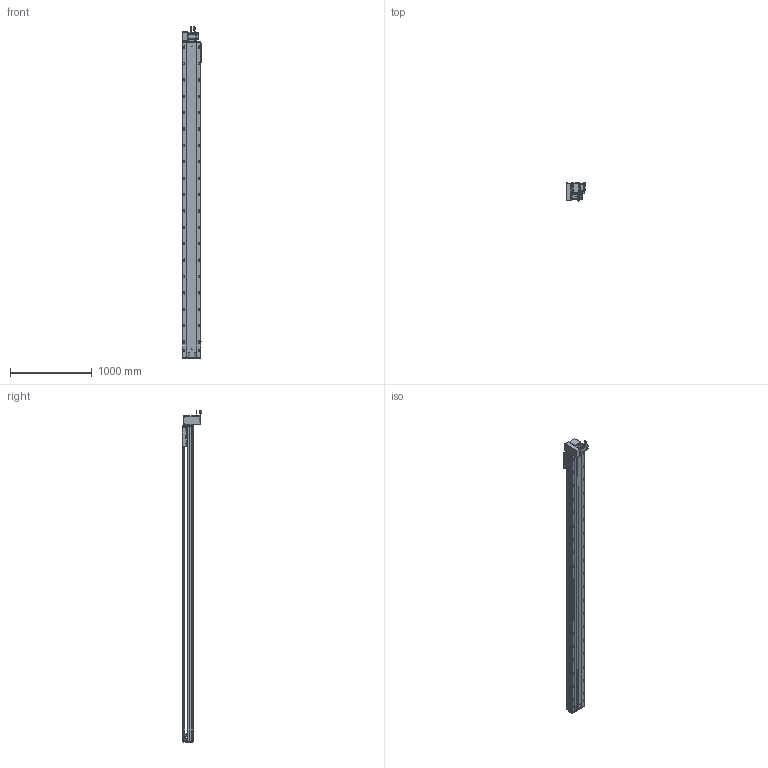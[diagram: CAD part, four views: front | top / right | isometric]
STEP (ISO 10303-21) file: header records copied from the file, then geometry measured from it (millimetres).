
FILE_DESCRIPTION (( 'STEP AP203' ), '1' );
FILE_NAME ('RY220-T-300-DL.SLDASM_3500.step', '2022-07-25T07:56:13', ( '' ), ( '' ), 'SwSTEP 2.0', 'SolidWorks 2016', '' );
FILE_SCHEMA (( 'CONFIG_CONTROL_DESIGN' ));
Length unit declared in the file: millimetre
Products named in the file (14): RY220-T-蛌殏萇儂假蚾啣(750W); RY220圉猾敕々湍臏賑輸; 滅袉蝶18-15; RY220翋肮祭謫裔啣; RY220翋肮祭謫釱; RY220-俋离672覜茼んえ; 覜茼ん672; RY220-T-湍謫欶(鍼踢); RY220-T-300-奻裔啣_3500; RY220-同步轮副支撑座6304×2; RY220-T菁釱-300_3500; 怢湛750W_ECMA-CX0807ES; 110A-T-肮祭謫釱傷裔; RY220-T-300-DL.SLDASM_3500
Assembly tree (18 placements, depth 2):
  RY220-T-300-DL.SLDASM_3500
    RY220-T菁釱-300_3500
    RY220翋肮祭謫釱
    覜茼ん672  x3
    RY220圉猾敕々湍臏賑輸
    RY220-T-300-奻裔啣_3500
    RY220-俋离672覜茼んえ
    滅袉蝶18-15  x3
    RY220翋肮祭謫裔啣  x2
    110A-T-肮祭謫釱傷裔
    怢湛750W_ECMA-CX0807ES
    RY220-T-湍謫欶(鍼踢)
    RY220-T-蛌殏萇儂假蚾啣(750W)
    RY220-同步轮副支撑座6304×2
Bounding box: 239.7 x 240.74 x 4053.27 mm (x, y, z)
Volume: 28437650.5 mm3; surface area: 8854049.8 mm2
Topology: 19 solids, 19 shells, 3134 faces, 8679 edges, 5416 vertices
Faces by surface type: cylinder 1570, plane 1069, cone 413, bspline 56, sphere 16, torus 10
Entity records: 104659 total; most frequent: CARTESIAN_POINT 29445, ORIENTED_EDGE 15514, DIRECTION 15072, EDGE_CURVE 7757, AXIS2_PLACEMENT_3D 5472, VERTEX_POINT 5040, VECTOR 4128, LINE 4128
